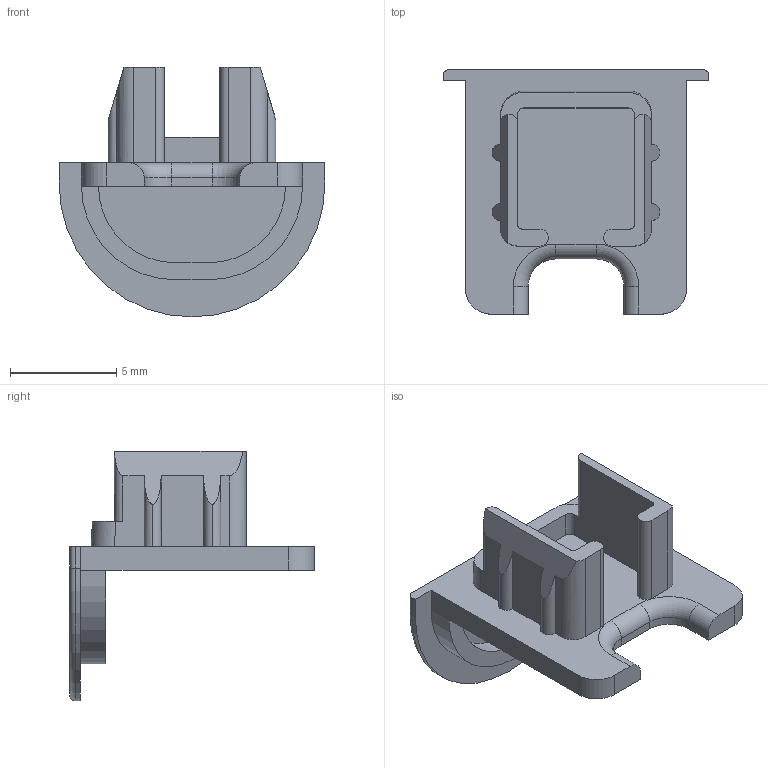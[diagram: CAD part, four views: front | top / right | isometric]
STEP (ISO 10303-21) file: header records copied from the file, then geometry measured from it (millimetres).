
FILE_DESCRIPTION (( 'STEP AP203' ), '1' );
FILE_NAME ('Endkappen_ChannelLine_T2_24.STEP', '2024-11-29T08:46:36', ( '' ), ( '' ), 'SwSTEP 2.0', 'SolidWorks 2023', '' );
FILE_SCHEMA (( 'CONFIG_CONTROL_DESIGN' ));
Length unit declared in the file: millimetre
Products named in the file (1): Endkappen_ChannelLine_T2_24
Bounding box: 12.5 x 11.5 x 11.75 mm (x, y, z)
Volume: 230.1 mm3; surface area: 576.6 mm2
Topology: 1 solids, 1 shells, 73 faces, 202 edges, 132 vertices
Faces by surface type: plane 36, cylinder 34, torus 3
Entity records: 2410 total; most frequent: CARTESIAN_POINT 450, ORIENTED_EDGE 404, DIRECTION 397, EDGE_CURVE 202, AXIS2_PLACEMENT_3D 135, VERTEX_POINT 132, LINE 127, VECTOR 127
